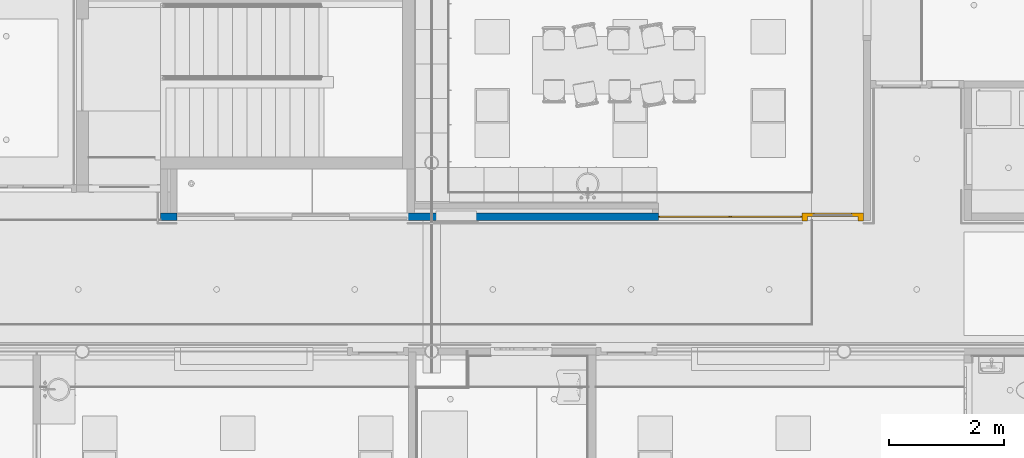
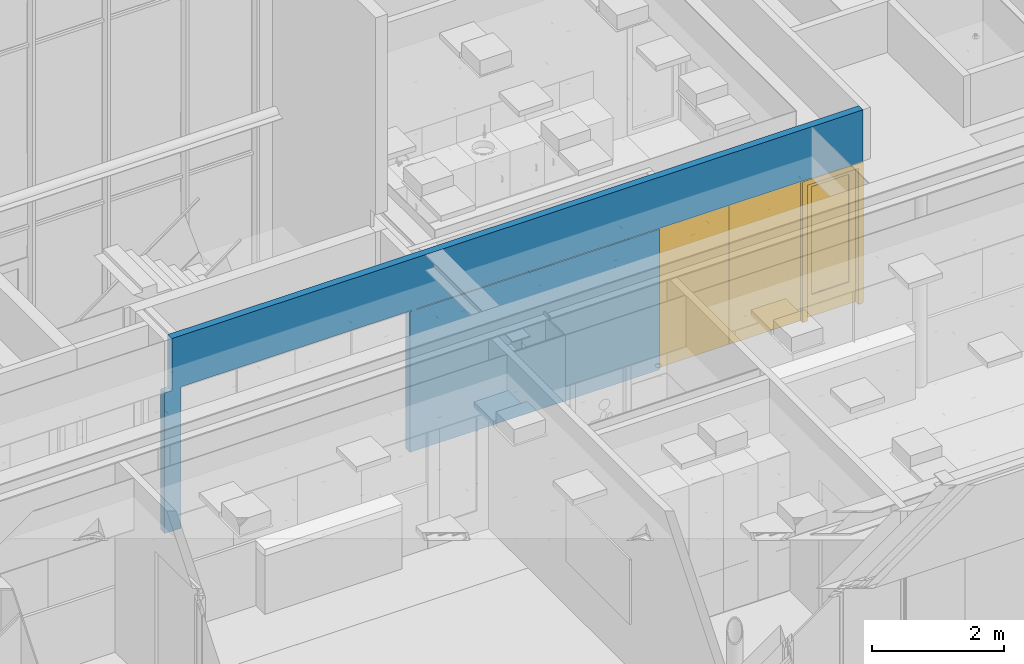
# One storey, part 45 of 347: 2 windows, 1 door, 1 wall, 4 openings.
"""IFC2X3 building model written with IfcOpenShell, lengths in millimetres."""

from ifc_helpers import new_model, entity, si_unit, converted_unit, derived_unit, money_unit, direction, frame, origin_with_axes, place, context, subcontext, project, spatial, open_shell, faceted_brep, surface_model, source, transform, mapped, material, type_object, type_shapes, element, fill, save


model = new_model("IFC2X3")

# Units and contexts
model_context = context("Model", 3, precision=0.01, world=origin_with_axes(), true_north=direction((0.0, 1.0)))
plan_context = context("Plan", 3, precision=0.01, world=origin_with_axes(), true_north=direction((0.0, 1.0)))
body_context = subcontext(model_context, "Body", "Model", "MODEL_VIEW")
ifc_project = project(units=[si_unit("LENGTHUNIT", "METRE", prefix="MILLI"), si_unit("AREAUNIT", "SQUARE_METRE"), si_unit("VOLUMEUNIT", "CUBIC_METRE"), converted_unit("PLANEANGLEUNIT", "DEGREE", entity("IfcPlaneAngleMeasure", 0.0174532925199), si_unit("PLANEANGLEUNIT", "RADIAN"), dimensions=[0, 0, 0, 0, 0, 0, 0]), money_unit("EUR"), converted_unit("TIMEUNIT", "Year", entity("IfcTimeMeasure", 31556926.0), si_unit("TIMEUNIT", "SECOND"), dimensions=[0, 0, 1, 0, 0, 0, 0]), si_unit("MASSUNIT", "GRAM", prefix="KILO"), si_unit("THERMODYNAMICTEMPERATUREUNIT", "DEGREE_CELSIUS"), si_unit("LUMINOUSINTENSITYUNIT", "LUMEN"), si_unit("ENERGYUNIT", "JOULE", prefix="MEGA"), derived_unit("THERMALCONDUCTANCEUNIT", [(si_unit("POWERUNIT", "WATT"), 1), (si_unit("LENGTHUNIT", "METRE"), -1), (si_unit("THERMODYNAMICTEMPERATUREUNIT", "KELVIN"), -1)]), derived_unit("SPECIFICHEATCAPACITYUNIT", [(si_unit("ENERGYUNIT", "JOULE"), 1), (si_unit("MASSUNIT", "GRAM", prefix="KILO"), -1), (si_unit("THERMODYNAMICTEMPERATUREUNIT", "KELVIN"), -1)]), derived_unit("MASSDENSITYUNIT", [(si_unit("MASSUNIT", "GRAM", prefix="KILO"), 1), (si_unit("VOLUMEUNIT", "CUBIC_METRE"), -1)])], contexts=[model_context, plan_context])

# Site, building, storey
site_placement = place(None, origin_with_axes())
site = spatial("IfcSite", under=ifc_project, at=site_placement, Name="Site", CompositionType="ELEMENT")
building_placement = place(site_placement, origin_with_axes())
building = spatial("IfcBuilding", under=site, at=building_placement, Name="Naam gebouw", CompositionType="ELEMENT")
storey_placement = place(building_placement, origin_with_axes())
storey = spatial("IfcBuildingStorey", under=building, at=storey_placement, Name="begane grond", CompositionType="ELEMENT", Elevation=0.0)

# Wall, openings, windows, door
ifc_material = material(Name="ALG - LICHTE SCHEIDINGSWAND")
wall_type = type_object("IfcWallType", Name="ALG LSW 125 125", PredefinedType="NOTDEFINED")
wall_placement = place(storey_placement, frame((19865.0, 14400.0, 0.0), z_axis=(0.0, 0.0, 1.0), x_axis=(1.0, 0.0, 0.0)))
wall = element("IfcWall", 1, at=wall_placement, inside=storey, type_object=wall_type, material=ifc_material, Name="22_GF 125 ECO DGS/2.75.2A", context=body_context, shape_type="Brep", body=[
    faceted_brep([(12210.0, 0.0, 2600.0), (12210.0, 125.0, 2600.0), (12210.0, 125.0, 3560.0), (12210.0, 0.0, 3560.0), (11310.0, 125.0, 2600.0), (11310.0, 0.0, 2600.0), (11310.0, 125.0, 2612.0), (4410.00000209, 125.0, 2612.0), (4410.00000209, 125.0, 2600.0), (8646.0, 125.0, 2600.0), (8646.0, 125.0, 0.0), (4285.0, 125.0, 0.0), (4285.0, 125.0, 2600.0), (4310.0, 125.0, 2600.0), (4310.0, 125.0, 2612.0), (285.0, 125.0, 2612.0), (285.0, 125.0, 2600.0), (285.0, 125.0, 0.0), (0.0, 125.0, 0.0), (0.0, 125.0, 2600.0), (125.0, 125.0, 2600.0), (125.0, 125.0, 3560.0), (125.0, 0.0, 3560.0), (125.0, 0.0, 2600.0), (0.0, 0.0, 2600.0), (0.0, 0.0, 0.0), (285.0, 0.0, 0.0), (285.0, -6.21986320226e-05, 2600.0), (285.0, -6.21986320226e-05, 2612.0), (4310.0, -6.21986320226e-05, 2612.0), (4310.0, -6.21986320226e-05, 2600.0), (4285.0, -6.21986320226e-05, 2600.0), (4285.0, 0.0, 0.0), (8646.0, 0.0, 0.0), (8646.0, 0.0, 2600.0), (4410.0, 0.0, 2600.0), (4410.0, 0.0, 2612.0), (11310.0, 0.0, 2612.0)], [[[0, 1, 2, 3]], [[4, 1, 0, 5]], [[1, 4, 6, 7, 8, 9, 10, 11, 12, 13, 14, 15, 16, 17, 18, 19, 20, 21, 2]], [[2, 21, 22, 3]], [[5, 0, 3, 22, 23, 24, 25, 26, 27, 28, 29, 30, 31, 32, 33, 34, 35, 36, 37]], [[4, 5, 37, 6]], [[7, 6, 37, 36]], [[8, 7, 36, 35]], [[35, 34, 9, 8]], [[34, 33, 10, 9]], [[11, 10, 33, 32]], [[12, 11, 32, 31]], [[31, 30, 13, 12]], [[14, 13, 30, 29]], [[15, 14, 29, 28]], [[16, 15, 28, 27]], [[16, 27, 26, 17]], [[26, 25, 18, 17]], [[25, 24, 19, 18]], [[23, 20, 19, 24]], [[23, 22, 21, 20]]]),
])
opening_1_placement = place(wall_placement, frame((10521.0, 0.0, 0.0), z_axis=(0.0, 0.0, 1.0), x_axis=(1.0, 0.0, 0.0)))
opening_1 = element("IfcOpeningElement", 2, at=opening_1_placement, cuts=wall, Name="31_10.17", context=body_context, shape_type="Brep", body=[
    faceted_brep([(-625.0, 250.0, 2600.0), (-625.0, 250.0, 0.0), (-625.0, 52.5, 0.0), (-625.0, 52.5, 2600.0), (625.0, 250.0, 2600.0), (625.0, 250.0, 0.0), (625.0, 52.5, 0.0), (625.0, 52.5, 2600.0)], [[[0, 1, 2, 3]], [[0, 4, 5, 1]], [[1, 5, 6, 2]], [[3, 2, 6, 7]], [[4, 0, 3, 7]], [[5, 4, 7, 6]]]),
    faceted_brep([(-625.0, -125.0, 0.0), (-625.0, -125.0, 2600.0), (-625.0, 52.5, 2600.0), (-625.0, 52.5, 0.0), (625.0, -125.0, 0.0), (625.0, -125.0, 2600.0), (625.0, 52.5, 2600.0), (625.0, 52.5, 0.0)], [[[0, 1, 2, 3]], [[0, 4, 5, 1]], [[1, 5, 6, 2]], [[3, 2, 6, 7]], [[4, 0, 3, 7]], [[5, 4, 7, 6]]]),
])
opening_2_placement = place(wall_placement, frame((9271.0, 0.0, 0.0), z_axis=(0.0, 0.0, 1.0), x_axis=(1.0, 0.0, 0.0)))
opening_2 = element("IfcOpeningElement", 3, at=opening_2_placement, cuts=wall, Name="31_10.17", context=body_context, shape_type="Brep", body=[
    faceted_brep([(-625.0, 250.0, 2600.0), (-625.0, 250.0, 0.0), (-625.0, 52.5, 0.0), (-625.0, 52.5, 2600.0), (625.0, 250.0, 2600.0), (625.0, 250.0, 0.0), (625.0, 52.5, 0.0), (625.0, 52.5, 2600.0)], [[[0, 1, 2, 3]], [[0, 4, 5, 1]], [[1, 5, 6, 2]], [[3, 2, 6, 7]], [[4, 0, 3, 7]], [[5, 4, 7, 6]]]),
    faceted_brep([(-625.0, -125.0, 0.0), (-625.0, -125.0, 2600.0), (-625.0, 52.5, 2600.0), (-625.0, 52.5, 0.0), (625.0, -125.0, 0.0), (625.0, -125.0, 2600.0), (625.0, 52.5, 2600.0), (625.0, 52.5, 0.0)], [[[0, 1, 2, 3]], [[0, 4, 5, 1]], [[1, 5, 6, 2]], [[3, 2, 6, 7]], [[4, 0, 3, 7]], [[5, 4, 7, 6]]]),
])
opening_3_placement = place(wall_placement, frame((2285.0, 0.0, 0.0), z_axis=(0.0, 0.0, 1.0), x_axis=(1.0, 0.0, 0.0)))
element("IfcOpeningElement", 4, at=opening_3_placement, cuts=wall, Name="32_-", context=body_context, shape_type="Brep", body=[
    faceted_brep([(-2000.0, -250.0, 0.0), (-2000.0, -250.0, 2600.0), (-2000.0, 125.0, 2600.0), (-2000.0, 125.0, 0.0), (2000.0, -250.0, 0.0), (2000.0, -250.0, 2600.0), (2000.0, 125.0, 2600.0), (2000.0, 125.0, 0.0)], [[[0, 1, 2, 3]], [[0, 4, 5, 1]], [[1, 5, 6, 2]], [[3, 2, 6, 7]], [[4, 0, 3, 7]], [[5, 4, 7, 6]]]),
])
opening_4_placement = place(wall_placement, frame((11678.0, 0.0, 0.0), z_axis=(0.0, 0.0, 1.0), x_axis=(1.0, 0.0, 0.0)))
opening_4 = element("IfcOpeningElement", 5, at=opening_4_placement, cuts=wall, Name="32_02.01", context=body_context, shape_type="Brep", body=[
    faceted_brep([(532.0, -125.0, 2600.0), (532.0, -125.0, 0.0), (532.0, 257.0, 0.0), (532.0, 257.0, 2600.0), (-532.0, -125.0, 2600.0), (-532.0, -125.0, 0.0), (-532.0, 257.0, 0.0), (-532.0, 257.0, 2600.0)], [[[0, 1, 2, 3]], [[0, 4, 5, 1]], [[1, 5, 6, 2]], [[3, 2, 6, 7]], [[4, 0, 3, 7]], [[5, 4, 7, 6]]]),
])
window_style = type_object("IfcWindowStyle", Name="R1 25", ConstructionType="NOTDEFINED", OperationType="SINGLE_PANEL", ParameterTakesPrecedence=False, Sizeable=False)
window_1_placement = place(opening_1_placement, frame((625.0, 0.0, 0.0), z_axis=(0.0, 0.0, 1.0), x_axis=(-1.0, 0.0, 0.0)))
window_1 = element("IfcWindow", 6, at=window_1_placement, inside=storey, type_object=window_style, Name="31_10.17", ObjectType="WINDOW", OverallHeight=2600.0, OverallWidth=1250.0, context=body_context, shape_type="SurfaceModel", body=[
    faceted_brep([(20.0, -72.5, 2580.0), (20.0, -52.5, 2580.0), (0.0, -52.5, 2580.0), (0.0, -72.5, 2580.0), (20.0, -72.5, 20.0), (20.0, -52.5, 20.0), (0.0, -52.5, 20.0), (0.0, -72.5, 20.0)], [[[0, 1, 2, 3]], [[4, 5, 1, 0]], [[1, 5, 6, 2]], [[3, 2, 6, 7]], [[0, 3, 7, 4]], [[7, 6, 5, 4]]]),
    faceted_brep([(1230.0, -72.5, 20.0), (1230.0, -52.5, 20.0), (1250.0, -52.5, 20.0), (1250.0, -72.5, 20.0), (1230.0, -72.5, 2580.0), (1230.0, -52.5, 2580.0), (1250.0, -52.5, 2580.0), (1250.0, -72.5, 2580.0)], [[[0, 1, 2, 3]], [[4, 5, 1, 0]], [[1, 5, 6, 2]], [[3, 2, 6, 7]], [[0, 3, 7, 4]], [[7, 6, 5, 4]]]),
    faceted_brep([(20.0, -72.5, 20.0), (20.0, -52.5, 20.0), (0.0, -52.5, 20.0), (0.0, -72.5, 20.0), (1230.0, -72.5, 20.0), (1230.0, -52.5, 20.0), (1250.0, -52.5, 20.0), (1250.0, -52.5, 0.0), (0.0, -52.5, 0.0), (0.0, -72.5, 0.0), (1250.0, -72.5, 0.0), (1250.0, -72.5, 20.0)], [[[0, 1, 2, 3]], [[4, 5, 1, 0]], [[1, 5, 6, 7, 8, 2]], [[3, 2, 8, 9]], [[0, 3, 9, 10, 11, 4]], [[11, 6, 5, 4]], [[10, 7, 6, 11]], [[9, 8, 7, 10]]]),
    faceted_brep([(1230.0, -72.5, 2580.0), (1230.0, -52.5, 2580.0), (1250.0, -52.5, 2580.0), (1250.0, -72.5, 2580.0), (20.0, -72.5, 2580.0), (20.0, -52.5, 2580.0), (0.0, -52.5, 2580.0), (0.0, -52.5, 2600.0), (1250.0, -52.5, 2600.0), (1250.0, -72.5, 2600.0), (0.0, -72.5, 2600.0), (0.0, -72.5, 2580.0)], [[[0, 1, 2, 3]], [[4, 5, 1, 0]], [[1, 5, 6, 7, 8, 2]], [[3, 2, 8, 9]], [[0, 3, 9, 10, 11, 4]], [[11, 6, 5, 4]], [[10, 7, 6, 11]], [[9, 8, 7, 10]]]),
    surface_model("IfcShellBasedSurfaceModel", [(20.0, -72.5, 20.0), (1230.0, -72.5, 20.0), (1230.0, -72.5, 2580.0), (20.0, -72.5, 2580.0)], [open_shell([[[0, 1, 2, 3]]])]),
    surface_model("IfcShellBasedSurfaceModel", [(20.0, -52.5, 20.0), (20.0, -52.5, 2580.0), (1230.0, -52.5, 2580.0), (1230.0, -52.5, 20.0)], [open_shell([[[0, 1, 2, 3]]])]),
])
fill(opening_1, window_1)
window_2_placement = place(opening_2_placement, frame((625.0, 0.0, 0.0), z_axis=(0.0, 0.0, 1.0), x_axis=(-1.0, 0.0, 0.0)))
window_2 = element("IfcWindow", 7, at=window_2_placement, inside=storey, type_object=window_style, Name="31_10.17", ObjectType="WINDOW", OverallHeight=2600.0, OverallWidth=1250.0, context=body_context, shape_type="SurfaceModel", body=[
    faceted_brep([(20.0, -72.5, 2580.0), (20.0, -52.5, 2580.0), (0.0, -52.5, 2580.0), (0.0, -72.5, 2580.0), (20.0, -72.5, 20.0), (20.0, -52.5, 20.0), (0.0, -52.5, 20.0), (0.0, -72.5, 20.0)], [[[0, 1, 2, 3]], [[4, 5, 1, 0]], [[1, 5, 6, 2]], [[3, 2, 6, 7]], [[0, 3, 7, 4]], [[7, 6, 5, 4]]]),
    faceted_brep([(1230.0, -72.5, 20.0), (1230.0, -52.5, 20.0), (1250.0, -52.5, 20.0), (1250.0, -72.5, 20.0), (1230.0, -72.5, 2580.0), (1230.0, -52.5, 2580.0), (1250.0, -52.5, 2580.0), (1250.0, -72.5, 2580.0)], [[[0, 1, 2, 3]], [[4, 5, 1, 0]], [[1, 5, 6, 2]], [[3, 2, 6, 7]], [[0, 3, 7, 4]], [[7, 6, 5, 4]]]),
    faceted_brep([(20.0, -72.5, 20.0), (20.0, -52.5, 20.0), (0.0, -52.5, 20.0), (0.0, -72.5, 20.0), (1230.0, -72.5, 20.0), (1230.0, -52.5, 20.0), (1250.0, -52.5, 20.0), (1250.0, -52.5, 0.0), (0.0, -52.5, 0.0), (0.0, -72.5, 0.0), (1250.0, -72.5, 0.0), (1250.0, -72.5, 20.0)], [[[0, 1, 2, 3]], [[4, 5, 1, 0]], [[1, 5, 6, 7, 8, 2]], [[3, 2, 8, 9]], [[0, 3, 9, 10, 11, 4]], [[11, 6, 5, 4]], [[10, 7, 6, 11]], [[9, 8, 7, 10]]]),
    faceted_brep([(1230.0, -72.5, 2580.0), (1230.0, -52.5, 2580.0), (1250.0, -52.5, 2580.0), (1250.0, -72.5, 2580.0), (20.0, -72.5, 2580.0), (20.0, -52.5, 2580.0), (0.0, -52.5, 2580.0), (0.0, -52.5, 2600.0), (1250.0, -52.5, 2600.0), (1250.0, -72.5, 2600.0), (0.0, -72.5, 2600.0), (0.0, -72.5, 2580.0)], [[[0, 1, 2, 3]], [[4, 5, 1, 0]], [[1, 5, 6, 7, 8, 2]], [[3, 2, 8, 9]], [[0, 3, 9, 10, 11, 4]], [[11, 6, 5, 4]], [[10, 7, 6, 11]], [[9, 8, 7, 10]]]),
    surface_model("IfcShellBasedSurfaceModel", [(20.0, -72.5, 20.0), (1230.0, -72.5, 20.0), (1230.0, -72.5, 2580.0), (20.0, -72.5, 2580.0)], [open_shell([[[0, 1, 2, 3]]])]),
    surface_model("IfcShellBasedSurfaceModel", [(20.0, -52.5, 20.0), (20.0, -52.5, 2580.0), (1230.0, -52.5, 2580.0), (1230.0, -52.5, 20.0)], [open_shell([[[0, 1, 2, 3]]])]),
])
fill(opening_2, window_2)
door_style = type_object("IfcDoorStyle", Name="D1 25", ConstructionType="NOTDEFINED", OperationType="SINGLE_SWING_RIGHT", ParameterTakesPrecedence=False, Sizeable=False)
shared_shape = source(origin_with_axes(), body_context, "Body", "SurfaceModel", [
    faceted_brep([(-442.0, -60.0, 0.0), (-442.0, -60.0, 2510.0), (-442.0, -139.0, 2510.0), (-442.0, -139.0, 0.0), (-467.0, -60.0, 2510.0), (-467.0, -60.0, 0.0), (-467.0, 0.0, 2510.0), (-532.0, 0.0, 2510.0), (-532.0, -139.0, 2510.0), (-532.0, -139.0, 0.0), (-532.0, 0.0, 0.0), (-467.0, 0.0, 0.0)], [[[0, 1, 2, 3]], [[4, 1, 0, 5]], [[4, 6, 7, 8, 2, 1]], [[3, 2, 8, 9]], [[5, 0, 3, 9, 10, 11]], [[6, 4, 5, 11]], [[6, 11, 10, 7]], [[10, 9, 8, 7]]]),
    faceted_brep([(467.0, -60.0, 2510.0), (442.0, -60.0, 2510.0), (442.0, -139.0, 2510.0), (532.0, -139.0, 2510.0), (532.0, 0.0, 2510.0), (467.0, 0.0, 2510.0), (467.0, -60.0, 0.0), (442.0, -60.0, 0.0), (442.0, -139.0, 0.0), (532.0, -139.0, 0.0), (532.0, 0.0, 0.0), (467.0, 0.0, 0.0)], [[[0, 1, 2, 3, 4, 5]], [[1, 0, 6, 7]], [[1, 7, 8, 2]], [[3, 2, 8, 9]], [[4, 3, 9, 10]], [[11, 5, 4, 10]], [[0, 5, 11, 6]], [[6, 11, 10, 9, 8, 7]]]),
    faceted_brep([(-467.0, 0.0, 2535.0), (-467.0, 0.0, 2510.0), (-532.0, 0.0, 2510.0), (-532.0, 0.0, 2600.0), (532.0, 0.0, 2600.0), (532.0, 0.0, 2510.0), (467.0, 0.0, 2510.0), (467.0, 0.0, 2535.0), (-467.0, -60.0, 2535.0), (-467.0, -60.0, 2510.0), (-442.0, -60.0, 2510.0), (-442.0, -139.0, 2510.0), (-532.0, -139.0, 2510.0), (-532.0, -139.0, 2600.0), (532.0, -139.0, 2600.0), (532.0, -139.0, 2510.0), (467.0, -60.0, 2510.0), (442.0, -139.0, 2510.0), (442.0, -60.0, 2510.0), (467.0, -60.0, 2535.0)], [[[0, 1, 2, 3, 4, 5, 6, 7]], [[1, 0, 8, 9]], [[9, 10, 11, 12, 2, 1]], [[2, 12, 13, 3]], [[3, 13, 14, 4]], [[4, 14, 15, 5]], [[16, 6, 5, 15, 17, 18]], [[7, 6, 16, 19]], [[0, 7, 19, 8]], [[16, 18, 10, 9, 8, 19]], [[10, 18, 17, 11]], [[17, 15, 14, 13, 12, 11]]]),
    faceted_brep([(467.0, -6.0, 400.0), (467.0, -60.0, 400.0), (327.0, -60.0, 400.0), (327.0, -6.0, 400.0), (467.0, -6.0, 2395.0), (467.0, -60.0, 2395.0), (327.0, -60.0, 2395.0), (327.0, -6.0, 2395.0)], [[[0, 1, 2, 3]], [[4, 5, 1, 0]], [[1, 5, 6, 2]], [[3, 2, 6, 7]], [[0, 3, 7, 4]], [[7, 6, 5, 4]]]),
    faceted_brep([(-467.0, -6.0, 400.0), (-467.0, -60.0, 400.0), (-467.0, -60.0, 2395.0), (-467.0, -6.0, 2395.0), (-327.0, -6.0, 400.0), (-327.0, -60.0, 400.0), (-327.0, -60.0, 2395.0), (-327.0, -6.0, 2395.0)], [[[0, 1, 2, 3]], [[4, 5, 1, 0]], [[1, 5, 6, 2]], [[3, 2, 6, 7]], [[0, 3, 7, 4]], [[7, 6, 5, 4]]]),
    faceted_brep([(467.0, -6.0, 0.0), (467.0, -60.0, 0.0), (-467.0, -60.0, 0.0), (-467.0, -6.0, 0.0), (467.0, -6.0, 400.0), (467.0, -60.0, 400.0), (327.0, -60.0, 400.0), (-327.0, -60.0, 400.0), (-467.0, -60.0, 400.0), (-467.0, -6.0, 400.0), (-327.0, -6.0, 400.0), (327.0, -6.0, 400.0)], [[[0, 1, 2, 3]], [[4, 5, 1, 0]], [[1, 5, 6, 7, 8, 2]], [[3, 2, 8, 9]], [[0, 3, 9, 10, 11, 4]], [[11, 6, 5, 4]], [[10, 7, 6, 11]], [[9, 8, 7, 10]]]),
    faceted_brep([(467.0, -6.0, 2535.0), (467.0, -60.0, 2535.0), (467.0, -60.0, 2395.0), (467.0, -6.0, 2395.0), (-467.0, -6.0, 2535.0), (-467.0, -60.0, 2535.0), (-467.0, -60.0, 2395.0), (-327.0, -60.0, 2395.0), (327.0, -60.0, 2395.0), (327.0, -6.0, 2395.0), (-327.0, -6.0, 2395.0), (-467.0, -6.0, 2395.0)], [[[0, 1, 2, 3]], [[4, 5, 1, 0]], [[1, 5, 6, 7, 8, 2]], [[3, 2, 8, 9]], [[0, 3, 9, 10, 11, 4]], [[11, 6, 5, 4]], [[10, 7, 6, 11]], [[9, 8, 7, 10]]]),
    surface_model("IfcShellBasedSurfaceModel", [(327.0, -27.0, 400.0), (-327.0, -27.0, 400.0), (-327.0, -27.0, 2395.0), (327.0, -27.0, 2395.0)], [open_shell([[[0, 1, 2, 3]]])]),
    surface_model("IfcShellBasedSurfaceModel", [(327.0, -39.0, 400.0), (327.0, -39.0, 2395.0), (-327.0, -39.0, 2395.0), (-327.0, -39.0, 400.0)], [open_shell([[[0, 1, 2, 3]]])]),
])
type_shapes(door_style, [shared_shape])
door_placement = place(opening_4_placement, frame((-532.0, 0.0, 0.0), z_axis=(0.0, 0.0, 1.0), x_axis=(1.0, 0.0, 0.0)))
door = element("IfcDoor", 8, at=door_placement, inside=storey, type_object=door_style, Name="32_02.01", ObjectType="DOOR", OverallHeight=2600.0, OverallWidth=1064.0, context=body_context, shape_type="MappedRepresentation", body=[
    mapped(shared_shape, transform((532.0, 132.0, 0.0))),
])
fill(opening_4, door)

save(model, "model.ifc")
